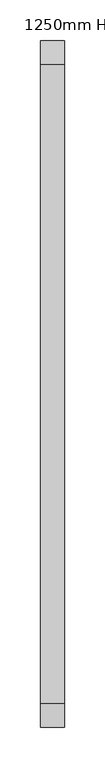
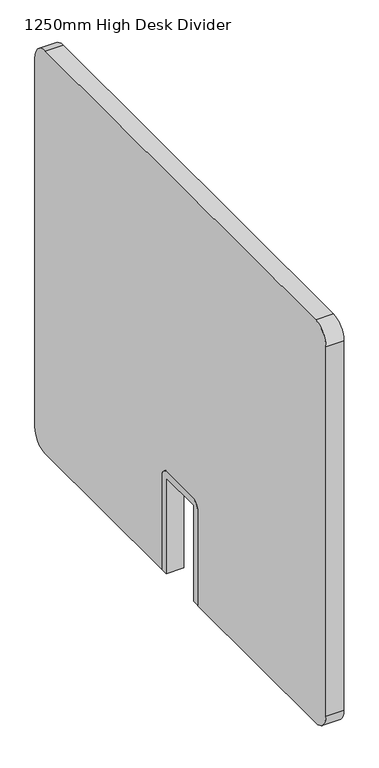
"""IFC4 building model written with IfcOpenShell, lengths in millimetres: furniture geometry, DBLTD_TheSenatorGroup_OffcDsks_Workbase_DeskDivider_FabricScreen : 1250mm High Desk Divider."""

import ifcopenshell
import ifcopenshell.guid

model = None  # the IFC model being written
_history = None  # IfcOwnerHistory: only IFC2X3 demands one
_inside = {}  # id of a spatial element -> (the spatial element, [elements in it])
_under = {}  # id of a project, library or spatial element -> (it, [spatial elements below it])
_declared = {}  # id of a project -> (the project, [libraries it declares])
_typed = {}  # id of a type object -> (the type object, [elements of that type])
_made_of = {}  # id of a material, layer set ... -> (it, [elements and type objects made of it])


def new_model(schema):
    """Start an empty IFC model of exactly this schema.

    Asked for "IFC4X3", IfcOpenShell would pick the latest addendum, in which some entities
    have other attributes; the version numbers below select the first issue.
    IFC2X3 requires an IfcOwnerHistory on every rooted entity: one is made here for all.
    """
    global model, _history
    if schema == "IFC4X3":
        model = ifcopenshell.file(schema_version=(4, 3, 0, 0))
    else:
        model = ifcopenshell.file(schema=schema)
    _inside.clear()
    _under.clear()
    _declared.clear()
    _typed.clear()
    _made_of.clear()
    _history = None
    if model.schema == "IFC2X3":
        org = make("IfcOrganization", Name="unknown")
        user = make(
            "IfcPersonAndOrganization",
            ThePerson=make("IfcPerson", FamilyName="unknown"),
            TheOrganization=org,
        )
        app = make(
            "IfcApplication",
            ApplicationDeveloper=org,
            Version="unknown",
            ApplicationFullName="unknown",
            ApplicationIdentifier="unknown",
        )
        _history = make(
            "IfcOwnerHistory",
            OwningUser=user,
            OwningApplication=app,
            ChangeAction="ADDED",
            CreationDate=0,
        )
    return model


def make(cls, **values):
    """One entity of the class cls with the attributes given. An attribute that is None is left unset."""
    return model.create_entity(
        cls, **{name: value for name, value in values.items() if value is not None}
    )


def rooted(cls, **values):
    """An entity with a GlobalId (a new one), such as an element, a storey or a relation."""
    return make(cls, GlobalId=ifcopenshell.guid.new(), OwnerHistory=_history, **values)


def si_unit(unit_type, name, prefix=None):
    """IfcSIUnit, for example si_unit("LENGTHUNIT", "METRE", prefix="MILLI")."""
    return make("IfcSIUnit", UnitType=unit_type, Prefix=prefix, Name=name)


def assignment(units):
    """IfcUnitAssignment: the units of a project."""
    return None if units is None else make("IfcUnitAssignment", Units=units)


def point(xyz):
    """IfcCartesianPoint."""
    return None if xyz is None else make("IfcCartesianPoint", Coordinates=xyz)


def direction(xyz):
    """IfcDirection."""
    return None if xyz is None else make("IfcDirection", DirectionRatios=xyz)


def frame(location, z_axis=None, x_axis=None):
    """IfcAxis2Placement3D, a coordinate frame: its origin and axes. An axis left out is left unset."""
    return make(
        "IfcAxis2Placement3D",
        Location=point(location),
        Axis=direction(z_axis),
        RefDirection=direction(x_axis),
    )


def frame_2d(location, x_axis=None):
    """IfcAxis2Placement2D, a coordinate frame in the plane: its origin and x axis."""
    return make(
        "IfcAxis2Placement2D", Location=point(location), RefDirection=direction(x_axis)
    )


def origin():
    """The frame at (0, 0, 0) with its axes left unset."""
    return frame((0.0, 0.0, 0.0))


def place(relative_to, where):
    """IfcLocalPlacement: puts the frame where relative to a parent placement (None: the world)."""
    return make(
        "IfcLocalPlacement", PlacementRelTo=relative_to, RelativePlacement=where
    )


def context(
    kind, dimensions, precision=None, world=None, true_north=None, identifier=None
):
    """IfcGeometricRepresentationContext, for example the 3D "Model" context."""
    return make(
        "IfcGeometricRepresentationContext",
        ContextIdentifier=identifier,
        ContextType=kind,
        CoordinateSpaceDimension=dimensions,
        Precision=precision,
        WorldCoordinateSystem=world,
        TrueNorth=true_north,
    )


def project(units=None, contexts=None):
    """IfcProject with its units and contexts."""
    return rooted(
        "IfcProject",
        Name="project",
        RepresentationContexts=contexts,
        UnitsInContext=assignment(units),
    )


def spatial(cls, under=None, at=None, **own):
    """A site, building, storey or space (cls), placed at a placement, below another one or the project."""
    s = rooted(cls, ObjectPlacement=at, **own)
    if under is not None:
        _under.setdefault(under.id(), (under, []))[1].append(s)
    return s


def polyline(points):
    """IfcPolyline through the points."""
    return make("IfcPolyline", Points=[point(p) for p in points])


def circle_curve(where, radius):
    """IfcCircle in the frame where."""
    return make("IfcCircle", Position=where, Radius=radius)


def trimmed(basis, trim1, trim2, sense, master):
    """IfcTrimmedCurve: the piece of a basis curve between two trims."""
    return make(
        "IfcTrimmedCurve",
        BasisCurve=basis,
        Trim1=trim1,
        Trim2=trim2,
        SenseAgreement=sense,
        MasterRepresentation=master,
    )


def segment(curve, same_sense, transition):
    """IfcCompositeCurveSegment."""
    return make(
        "IfcCompositeCurveSegment",
        Transition=transition,
        SameSense=same_sense,
        ParentCurve=curve,
    )


def composite_curve(segments, self_intersect=None):
    """IfcCompositeCurve: segments joined end to end."""
    return make("IfcCompositeCurve", Segments=segments, SelfIntersect=self_intersect)


def outline(outer, holes=None, kind="AREA"):
    """IfcArbitraryClosedProfileDef: a profile drawn as a closed curve; with holes, ...WithVoids."""
    if holes is None:
        return make("IfcArbitraryClosedProfileDef", ProfileType=kind, OuterCurve=outer)
    return make(
        "IfcArbitraryProfileDefWithVoids",
        ProfileType=kind,
        OuterCurve=outer,
        InnerCurves=holes,
    )


def extrude(swept, where, along, depth):
    """IfcExtrudedAreaSolid: the profile swept, set in the frame where, extruded along a direction by depth."""
    return make(
        "IfcExtrudedAreaSolid",
        SweptArea=swept,
        Position=where,
        ExtrudedDirection=direction(along),
        Depth=depth,
    )


def shape(context_of_items, identifier, shape_type, items):
    """IfcShapeRepresentation: the items that make up one representation, for example the "Body"."""
    return make(
        "IfcShapeRepresentation",
        ContextOfItems=context_of_items,
        RepresentationIdentifier=identifier,
        RepresentationType=shape_type,
        Items=items,
    )


def source(mapping_origin, context_of_items, identifier, shape_type, items):
    """IfcRepresentationMap: a shape defined once, which mapped items show again and again."""
    return make(
        "IfcRepresentationMap",
        MappingOrigin=mapping_origin,
        MappedRepresentation=shape(context_of_items, identifier, shape_type, items),
    )


def transform(
    local_origin,
    x_axis=None,
    y_axis=None,
    z_axis=None,
    scale=None,
    scale2=None,
    scale3=None,
    uniform=True,
):
    """IfcCartesianTransformationOperator3D, or its non-uniform kind. x_axis, y_axis, z_axis: its Axis1, 2, 3."""
    if uniform:
        return make(
            "IfcCartesianTransformationOperator3D",
            Axis1=direction(x_axis),
            Axis2=direction(y_axis),
            LocalOrigin=point(local_origin),
            Scale=scale,
            Axis3=direction(z_axis),
        )
    return make(
        "IfcCartesianTransformationOperator3DnonUniform",
        Axis1=direction(x_axis),
        Axis2=direction(y_axis),
        LocalOrigin=point(local_origin),
        Scale=scale,
        Axis3=direction(z_axis),
        Scale2=scale2,
        Scale3=scale3,
    )


def mapped(mapping_source, mapping_target):
    """IfcMappedItem: shows the shape of a source again, moved by a transform."""
    return make(
        "IfcMappedItem", MappingSource=mapping_source, MappingTarget=mapping_target
    )


def made_of(thing, what):
    """Note that an element or type object is made of a material, layer set ...; save() writes the relation."""
    if what is not None:
        _made_of.setdefault(what.id(), (what, []))[1].append(thing)
    return thing


def element(
    cls,
    number,
    at=None,
    inside=None,
    cuts=None,
    type_object=None,
    material=None,
    context=None,
    identifier="Body",
    shape_type=None,
    held_by="IfcProductDefinitionShape",
    body=None,
    shapes=None,
    **own,
):
    """One element of the class cls, such as IfcWall. Its Tag is "e" and its number.

    at: its placement. inside: the storey or other place that contains it. cuts: it is an
    opening in that element (IfcRelVoidsElement). A single representation is given by context,
    identifier, shape_type and body (its items); several are given by shapes. held_by: the class
    of the entity that holds the representations. save() writes the other relations.
    """
    e = rooted(cls, Tag="e%d" % number, ObjectPlacement=at, **own)
    if body is not None:
        shapes = [shape(context, identifier, shape_type, body)]
    if shapes is not None:
        e.Representation = make(held_by, Representations=shapes)
    if inside is not None:
        _inside.setdefault(inside.id(), (inside, []))[1].append(e)
    if cuts is not None:
        rooted(
            "IfcRelVoidsElement", RelatingBuildingElement=cuts, RelatedOpeningElement=e
        )
    if type_object is not None:
        _typed.setdefault(type_object.id(), (type_object, []))[1].append(e)
    return made_of(e, material)


def aggregate(whole, parts):
    """IfcRelAggregates: a whole, such as a stair, and the parts it consists of."""
    return rooted("IfcRelAggregates", RelatingObject=whole, RelatedObjects=parts)


def save(model, path):
    """Write the relations noted so far, then the file.

    IfcRelAggregates (storeys below a building ...), IfcRelContainedInSpatialStructure (elements
    in a storey), IfcRelDefinesByType, IfcRelAssociatesMaterial and IfcRelDeclares: one each for
    every whole, place, type object, material and project.
    """
    for whole, parts in _under.values():
        aggregate(whole, parts)
    for where, things in _inside.values():
        rooted(
            "IfcRelContainedInSpatialStructure",
            RelatedElements=things,
            RelatingStructure=where,
        )
    for kind, things in _typed.values():
        rooted("IfcRelDefinesByType", RelatedObjects=things, RelatingType=kind)
    for what, things in _made_of.values():
        rooted("IfcRelAssociatesMaterial", RelatedObjects=things, RelatingMaterial=what)
    for by, libraries in _declared.values():
        rooted("IfcRelDeclares", RelatingContext=by, RelatedDefinitions=libraries)
    model.write(path)


def furniture_1250mm_high_desk_divider_c3c9ed02(model_context):
    return source(origin(), model_context, "Body", "SweptSolid", [
        extrude(outline(composite_curve([segment(polyline([(452.100174, 534.9538126), (440.100174, 534.9538126), (440.100174, 704.9999237), (360.100174, 704.9999237), (360.100174, 534.9538126), (348.100174, 534.9538126), (348.100174, 701.9999237)]), True, "CONTINUOUS"), segment(trimmed(circle_curve(frame_2d((363.100174, 701.9999237)), 15.0), [point((348.100174, 701.9999237))], [point((363.100174, 716.9999237))], False, "CARTESIAN"), True, "CONTINUOUS"), segment(polyline([(363.100174, 716.9999237), (437.100174, 716.9999237)]), True, "CONTINUOUS"), segment(trimmed(circle_curve(frame_2d((437.100174, 701.9999237)), 15.0), [point((437.100174, 716.9999237))], [point((452.100174, 701.9999237))], False, "CARTESIAN"), True, "CONTINUOUS"), segment(polyline([(452.100174, 701.9999237), (452.100174, 534.9538126)]), True, "CONTINUOUS")], self_intersect=False)), frame((82.4883308, 0.0, 0.0), z_axis=(1.0, 0.0, 0.0), x_axis=(0.0, 1.0, 0.0)), (0.0, 0.0, 1.0), 29.9356232),
        extrude(outline(composite_curve([segment(trimmed(circle_curve(frame_2d((792.0270271, 1220.0)), 30.0), [point((792.0270271, 1250.0))], [point((822.0270271, 1220.0))], False, "CARTESIAN"), True, "CONTINUOUS"), segment(polyline([(822.0270271, 1220.0), (822.0270271, 564.9538126)]), True, "CONTINUOUS"), segment(trimmed(circle_curve(frame_2d((792.0270271, 564.9538126)), 30.0), [point((822.0270271, 564.9538126))], [point((792.0270271, 534.9538126))], False, "CARTESIAN"), True, "CONTINUOUS"), segment(polyline([(792.0270271, 534.9538126), (452.100174, 534.9538126), (452.100174, 701.9999237)]), True, "CONTINUOUS"), segment(trimmed(circle_curve(frame_2d((437.100174, 701.9999237)), 15.0), [point((452.100174, 701.9999237))], [point((437.100174, 716.9999237))], True, "CARTESIAN"), True, "CONTINUOUS"), segment(polyline([(437.100174, 716.9999237), (363.100174, 716.9999237)]), True, "CONTINUOUS"), segment(trimmed(circle_curve(frame_2d((363.100174, 701.9999237)), 15.0), [point((363.100174, 716.9999237))], [point((348.100174, 701.9999237))], True, "CARTESIAN"), True, "CONTINUOUS"), segment(polyline([(348.100174, 701.9999237), (348.100174, 534.0), (5.100174, 534.0)]), True, "CONTINUOUS"), segment(trimmed(circle_curve(frame_2d((5.100174, 564.0)), 30.0), [point((5.100174, 534.0))], [point((-24.899826, 564.0))], False, "CARTESIAN"), True, "CONTINUOUS"), segment(polyline([(-24.899826, 564.0), (-24.899826, 1220.0)]), True, "CONTINUOUS"), segment(trimmed(circle_curve(frame_2d((5.100174, 1220.0)), 30.0), [point((-24.899826, 1220.0))], [point((5.100174, 1250.0))], False, "CARTESIAN"), True, "CONTINUOUS"), segment(polyline([(5.100174, 1250.0), (792.0270271, 1250.0)]), True, "CONTINUOUS")], self_intersect=False)), frame((82.4883308, 0.0, 0.0), z_axis=(1.0, 0.0, 0.0), x_axis=(0.0, 1.0, 0.0)), (0.0, 0.0, 1.0), 29.9356232),
    ])


if __name__ == "__main__":
    model = new_model("IFC4")
    model_context = context("Model", 3, world=origin())
    ifc_project = project(units=[si_unit("LENGTHUNIT", "METRE", prefix="MILLI")], contexts=[model_context])
    site = spatial("IfcSite", under=ifc_project)
    building = spatial("IfcBuilding", under=site)
    placement = place(None, origin())
    furniture_1250mm_high_desk_divider_shape = furniture_1250mm_high_desk_divider_c3c9ed02(model_context)
    element("IfcFurniture", 1, ObjectType="DBLTD_TheSenatorGroup_OffcDsks_Workbase_DeskDivider_FabricScreen : 1250mm High Desk Divider", at=placement, inside=building, context=model_context, shape_type="MappedRepresentation", body=[
        mapped(furniture_1250mm_high_desk_divider_shape, transform((0.0, 0.0, 0.0), x_axis=(1.0, 0.0, 0.0), y_axis=(0.0, 1.0, 0.0), z_axis=(0.0, 0.0, 1.0))),
    ])
    save(model, "model.ifc")
